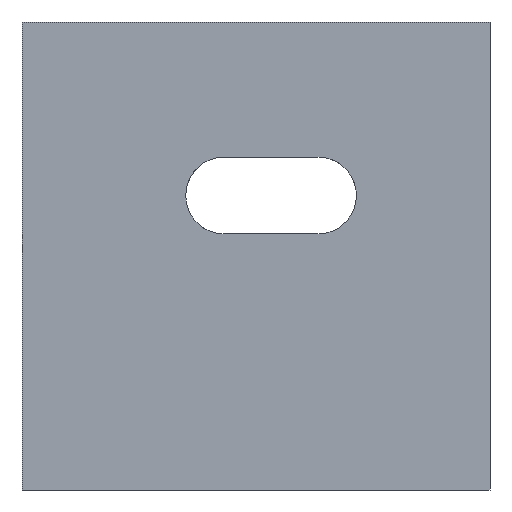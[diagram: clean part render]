
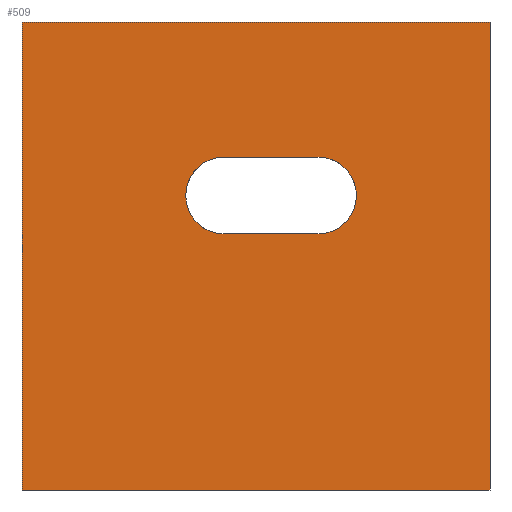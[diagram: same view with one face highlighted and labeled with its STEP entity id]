
A CAD part, left-side view. The second image highlights one B-rep face of the part: STEP entity #509.
In plain terms, the highlighted planar face has unit normal (-1, 0, 0).
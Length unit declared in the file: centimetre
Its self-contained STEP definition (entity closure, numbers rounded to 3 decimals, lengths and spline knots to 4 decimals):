
#2 = CARTESIAN_POINT ( 'NONE',  ( 0., 367.6596, 711.4339 ) ) ;
#32 = AXIS2_PLACEMENT_3D ( 'NONE', #197, #819, #727 ) ;
#67 = PLANE ( 'NONE',  #185 ) ;
#71 = CARTESIAN_POINT ( 'NONE',  ( 0., 0., 1000. ) ) ;
#89 = DIRECTION ( 'NONE',  ( 0., -1., 0. ) ) ;
#150 = VECTOR ( 'NONE', #325, 100. ) ;
#153 = CARTESIAN_POINT ( 'NONE',  ( 0., 367.6596, 547.0334 ) ) ;
#185 = AXIS2_PLACEMENT_3D ( 'NONE', #491, #309, #245 ) ;
#197 = CARTESIAN_POINT ( 'NONE',  ( 0., 367.6596, 629.2336 ) ) ;
#223 = CARTESIAN_POINT ( 'NONE',  ( 0., 567.9391, 629.2336 ) ) ;
#239 = CARTESIAN_POINT ( 'NONE',  ( 0., 1000., 1000. ) ) ;
#242 = LINE ( 'NONE', #239, #150 ) ;
#245 = DIRECTION ( 'NONE',  ( 0., 0., -1. ) ) ;
#271 = ORIENTED_EDGE ( 'NONE', *, *, #549, .T. ) ;
#309 = DIRECTION ( 'NONE',  ( 1., 0., 0. ) ) ;
#312 = VERTEX_POINT ( 'NONE', #775 ) ;
#317 = VECTOR ( 'NONE', #935, 100. ) ;
#320 = CARTESIAN_POINT ( 'NONE',  ( 0., 0., 1000. ) ) ;
#325 = DIRECTION ( 'NONE',  ( 0., 0., -1. ) ) ;
#381 = ORIENTED_EDGE ( 'NONE', *, *, #875, .F. ) ;
#389 = VERTEX_POINT ( 'NONE', #1080 ) ;
#414 = LINE ( 'NONE', #768, #856 ) ;
#418 = CARTESIAN_POINT ( 'NONE',  ( 0., 1000., 0. ) ) ;
#443 = CARTESIAN_POINT ( 'NONE',  ( 0., 0., 0. ) ) ;
#445 = VECTOR ( 'NONE', #814, 100. ) ;
#448 = DIRECTION ( 'NONE',  ( 0., -1., 0. ) ) ;
#452 = ORIENTED_EDGE ( 'NONE', *, *, #796, .F. ) ;
#481 = FACE_BOUND ( 'NONE', #910, .T. ) ;
#491 = CARTESIAN_POINT ( 'NONE',  ( 0., 1000., 1000. ) ) ;
#495 = LINE ( 'NONE', #418, #598 ) ;
#509 = ADVANCED_FACE ( 'NONE', ( #481, #842 ), #67, .F. ) ;
#532 = EDGE_CURVE ( 'NONE', #389, #641, #495, .T. ) ;
#540 = LINE ( 'NONE', #551, #923 ) ;
#549 = EDGE_CURVE ( 'NONE', #565, #968, #414, .T. ) ;
#551 = CARTESIAN_POINT ( 'NONE',  ( 0., 567.9391, 711.4339 ) ) ;
#557 = VERTEX_POINT ( 'NONE', #71 ) ;
#561 = CARTESIAN_POINT ( 'NONE',  ( 0., 1000., 1000. ) ) ;
#565 = VERTEX_POINT ( 'NONE', #153 ) ;
#571 = CIRCLE ( 'NONE', #32, 82.2003 ) ;
#580 = LINE ( 'NONE', #320, #317 ) ;
#598 = VECTOR ( 'NONE', #89, 100. ) ;
#601 = DIRECTION ( 'NONE',  ( 0., 0., -1. ) ) ;
#641 = VERTEX_POINT ( 'NONE', #443 ) ;
#650 = EDGE_LOOP ( 'NONE', ( #685, #452, #381, #754 ) ) ;
#656 = ORIENTED_EDGE ( 'NONE', *, *, #693, .T. ) ;
#685 = ORIENTED_EDGE ( 'NONE', *, *, #532, .T. ) ;
#693 = EDGE_CURVE ( 'NONE', #840, #756, #540, .T. ) ;
#697 = DIRECTION ( 'NONE',  ( 1., 0., 0. ) ) ;
#716 = EDGE_CURVE ( 'NONE', #756, #565, #571, .T. ) ;
#727 = DIRECTION ( 'NONE',  ( 0., 0., -1. ) ) ;
#729 = ORIENTED_EDGE ( 'NONE', *, *, #972, .T. ) ;
#754 = ORIENTED_EDGE ( 'NONE', *, *, #781, .T. ) ;
#756 = VERTEX_POINT ( 'NONE', #2 ) ;
#768 = CARTESIAN_POINT ( 'NONE',  ( 0., 367.6596, 547.0334 ) ) ;
#775 = CARTESIAN_POINT ( 'NONE',  ( 0., 1000., 1000. ) ) ;
#781 = EDGE_CURVE ( 'NONE', #312, #389, #242, .T. ) ;
#796 = EDGE_CURVE ( 'NONE', #557, #641, #580, .T. ) ;
#814 = DIRECTION ( 'NONE',  ( 0., -1., 0. ) ) ;
#819 = DIRECTION ( 'NONE',  ( 1., 0., 0. ) ) ;
#829 = CARTESIAN_POINT ( 'NONE',  ( 0., 567.9391, 547.0334 ) ) ;
#840 = VERTEX_POINT ( 'NONE', #926 ) ;
#842 = FACE_OUTER_BOUND ( 'NONE', #650, .T. ) ;
#856 = VECTOR ( 'NONE', #1105, 100. ) ;
#875 = EDGE_CURVE ( 'NONE', #312, #557, #956, .T. ) ;
#876 = ORIENTED_EDGE ( 'NONE', *, *, #716, .T. ) ;
#910 = EDGE_LOOP ( 'NONE', ( #656, #876, #271, #729 ) ) ;
#923 = VECTOR ( 'NONE', #448, 100. ) ;
#926 = CARTESIAN_POINT ( 'NONE',  ( 0., 567.9391, 711.4339 ) ) ;
#935 = DIRECTION ( 'NONE',  ( 0., 0., -1. ) ) ;
#956 = LINE ( 'NONE', #561, #445 ) ;
#968 = VERTEX_POINT ( 'NONE', #829 ) ;
#972 = EDGE_CURVE ( 'NONE', #968, #840, #1096, .T. ) ;
#1046 = AXIS2_PLACEMENT_3D ( 'NONE', #223, #697, #601 ) ;
#1080 = CARTESIAN_POINT ( 'NONE',  ( 0., 1000., 0. ) ) ;
#1096 = CIRCLE ( 'NONE', #1046, 82.2003 ) ;
#1105 = DIRECTION ( 'NONE',  ( 0., 1., 0. ) ) ;
